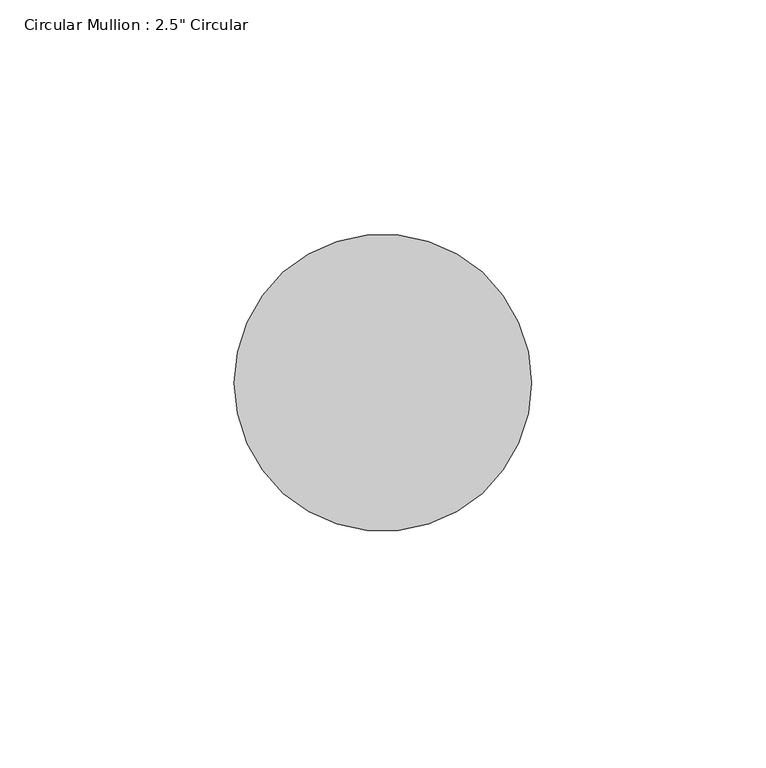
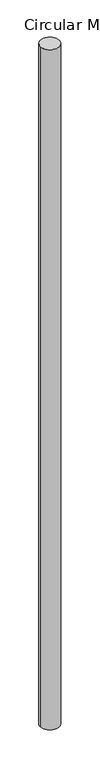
"""IFC4 building model written with IfcOpenShell, lengths in millimetres: member geometry."""

from ifc_helpers import new_model, si_unit, frame, origin, place, context, project, spatial, circle_curve, ellipse_curve, source, transform, mapped, element, save
from ifc_brep_helpers import plane_surface, cylinder_surface, advanced_brep


def member_75c37333(model_context):
    return source(origin(), model_context, "Body", "AdvancedBrep", [
        advanced_brep(
        [(0.0, 0.0, 0.0), (-63.5, 0.0, 0.0), (0.0, 0.0, -2409.7997584), (-63.5, 0.0, -2408.6108928)],
        [
            (0, 1, circle_curve(frame((-31.75, 0.0, 0.0), z_axis=(0.0, 0.0, 1.0), x_axis=(1.0, 0.0, 0.0)), 31.75)),
            (1, 0, circle_curve(frame((-31.75, 0.0, 0.0), z_axis=(0.0, 0.0, 1.0), x_axis=(1.0, 0.0, 0.0)), 31.75)),
            (0, 2),
            (2, 3, ellipse_curve(frame((-31.75, 0.0, -2409.2053256), z_axis=(0.018687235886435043, 0.058243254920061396, 0.9981275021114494), x_axis=(-0.30493608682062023, -0.9504064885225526, 0.061167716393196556)), 31.8095633, 31.75)),
            (3, 1),
            (3, 2, ellipse_curve(frame((-31.75, 0.0, -2409.2053256), z_axis=(0.018687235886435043, 0.058243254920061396, 0.9981275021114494), x_axis=(-0.30493608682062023, -0.9504064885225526, 0.061167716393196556)), 31.8095633, 31.75)),
        ],
        [
            plane_surface(frame((0.0, -63.5, 0.0), z_axis=(0.0, 0.0, 1.0), x_axis=(-1.0, 0.0, 0.0))),
            cylinder_surface(frame((-31.75, 0.0, 0.0), z_axis=(0.0, 0.0, 1.0), x_axis=(1.0, 0.0, 0.0)), 31.75),
            plane_surface(frame((290.2273478, -93.1188842, -2409.7997584), z_axis=(-0.018687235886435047, -0.05824325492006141, -0.9981275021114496), x_axis=(-0.30493608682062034, -0.9504064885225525, 0.06116771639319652))),
        ],
        [
            (0, [[1, 2]]),
            (1, [[-1, 3, 4, 5]]),
            (1, [[-2, -5, 6, -3]]),
            (2, [[-6, -4]]),
        ],
    ),
    ])


if __name__ == "__main__":
    model = new_model("IFC4")
    model_context = context("Model", 3, world=origin())
    ifc_project = project(units=[si_unit("LENGTHUNIT", "METRE", prefix="MILLI")], contexts=[model_context])
    site = spatial("IfcSite", under=ifc_project)
    building = spatial("IfcBuilding", under=site)
    placement = place(None, origin())
    member_shape = member_75c37333(model_context)
    element("IfcMember", 1, ObjectType="Circular Mullion : 2.5\" Circular", at=placement, inside=building, context=model_context, shape_type="MappedRepresentation", body=[
        mapped(member_shape, transform((0.0, 0.0, 0.0), x_axis=(1.0, 0.0, 0.0), y_axis=(0.0, 1.0, 0.0), z_axis=(0.0, 0.0, 1.0))),
    ])
    save(model, "model.ifc")
